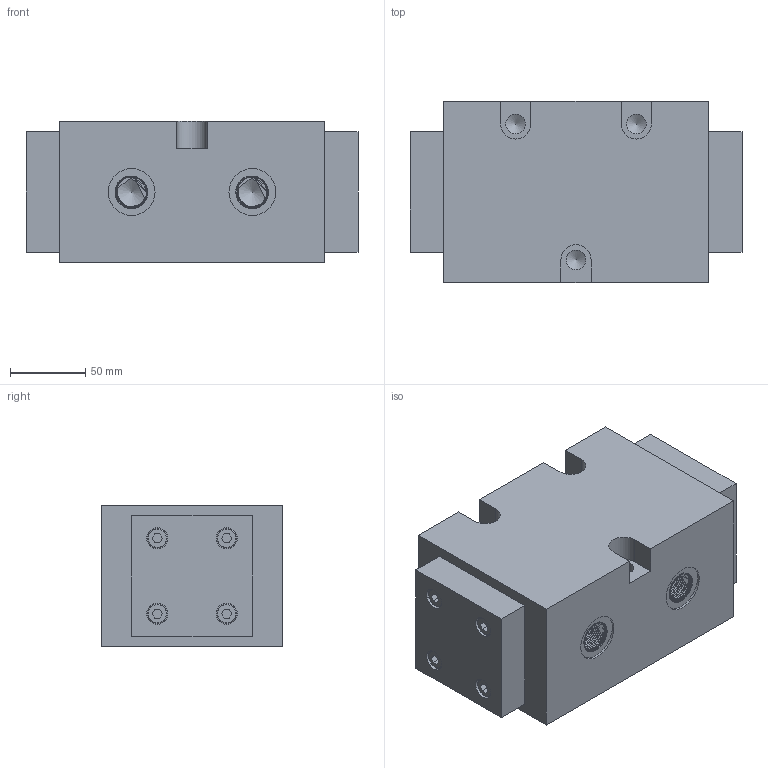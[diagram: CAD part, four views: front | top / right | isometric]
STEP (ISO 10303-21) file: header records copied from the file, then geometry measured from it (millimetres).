
FILE_DESCRIPTION(/* description */ (''),/* implementation_level */ '2;1');
FILE_NAME(/* name */ '14-3.prt.stp',/* time_stamp */ '2023-05-03T14:27:11+08:00',/* author */ (''),/* organization */ (''),/* preprocessor_version */ 'ST-DEVELOPER v16.7',/* originating_system */ 'SIEMENS PLM Software NX 12.0',/* authorisation */ '');
FILE_SCHEMA (('AUTOMOTIVE_DESIGN { 1 0 10303 214 3 1 1 1 }'));
Length unit declared in the file: millimetre
Products named in the file (1): 14-3
Bounding box: 220 x 120 x 94 mm (x, y, z)
Volume: 2179627.6 mm3; surface area: 177586 mm2
Topology: 11 solids, 11 shells, 263 faces, 658 edges, 436 vertices
Faces by surface type: plane 153, cylinder 71, cone 22, bspline 9, torus 8
Full cylindrical faces by diameter (mm): 6.8 x8, 8 x8, 9 x8, 13 x11, 14 x8, 31 x2, 38 x1
Entity records: 24076 total; most frequent: CARTESIAN_POINT 18214, DIRECTION 1167, ORIENTED_EDGE 1044, EDGE_CURVE 522, AXIS2_PLACEMENT_3D 426, EDGE_LOOP 398, VERTEX_POINT 398, LINE 315
